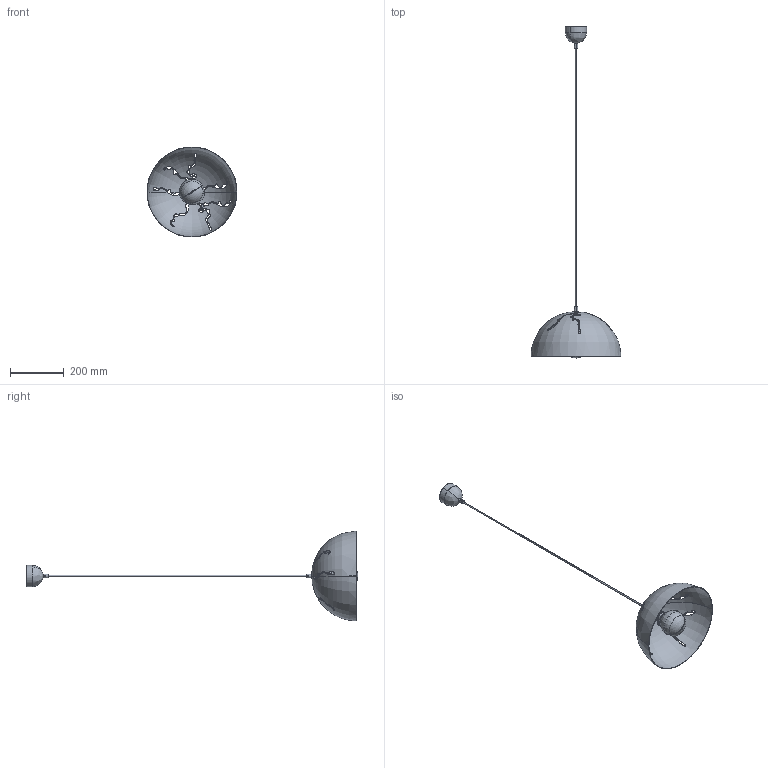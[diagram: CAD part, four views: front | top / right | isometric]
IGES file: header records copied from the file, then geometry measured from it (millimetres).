
Start section: SolidWorks IGES file using analytic representation for surfaces
Global section: file name: E:\3D lampy\Hemisphere\Hemisphere craks\Hemisphere cracks_S.IGS; native system: SolidWorks 2016; preprocessor: SolidWorks 2016; author: Asia; date: 161028.100407; units: millimetre
Bounding box: 335 x 1236.06 x 335 mm (x, y, z)
Surface area: 454146.9 mm2 (no closed solid volume)
Topology: 0 solids, 0 shells, 183 faces, 9300 edges, 9299 vertices
Faces by surface type: revolution 94, bspline 89
